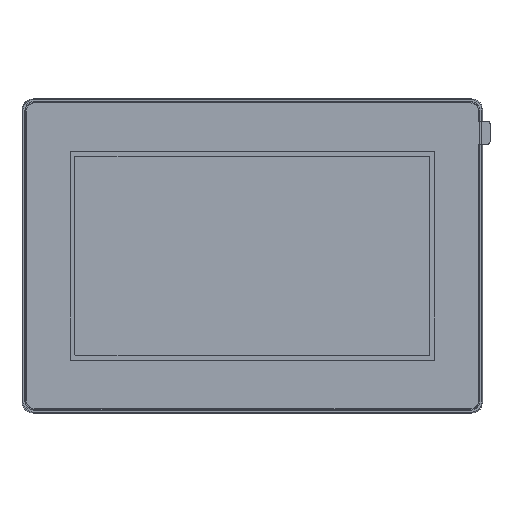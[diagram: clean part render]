
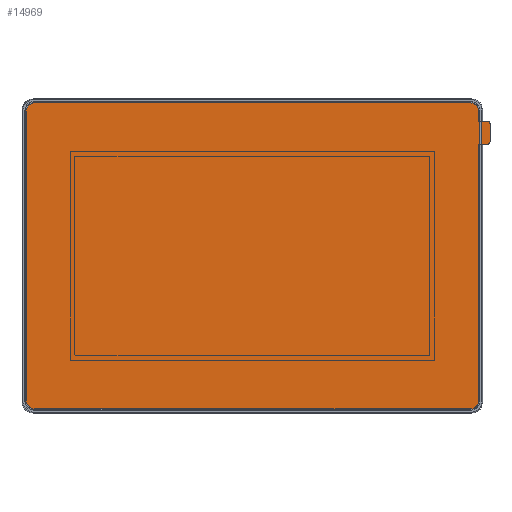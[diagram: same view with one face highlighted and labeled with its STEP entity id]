
A CAD part, top view. The second image highlights one B-rep face of the part: STEP entity #14969.
In plain terms, the highlighted planar face has unit normal (0, 0, 1) as drawn and (0, 1, 0) by its records, which use the part's own axes.
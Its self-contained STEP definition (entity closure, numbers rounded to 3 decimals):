
#14598=CARTESIAN_POINT('',(102.8,0.1,-57.8));
#14599=DIRECTION('',(0.,-1.,0.));
#14600=DIRECTION('',(0.,0.,-1.));
#14601=AXIS2_PLACEMENT_3D('',#14598,#14599,#14600);
#14603=DIRECTION('',(0.,0.,1.));
#14604=VECTOR('',#14603,8.);
#14605=CARTESIAN_POINT('',(103.8,0.1,-57.8));
#14606=LINE('',#14605,#14604);
#14607=CARTESIAN_POINT('',(102.8,0.1,-49.8));
#14608=DIRECTION('',(0.,-1.,0.));
#14609=DIRECTION('',(1.,0.,0.));
#14610=AXIS2_PLACEMENT_3D('',#14607,#14608,#14609);
#14612=DIRECTION('',(-1.,0.,0.));
#14613=VECTOR('',#14612,4.);
#14614=CARTESIAN_POINT('',(102.8,0.1,-48.8));
#14615=LINE('',#14614,#14613);
#14616=DIRECTION('',(0.,0.,1.));
#14617=VECTOR('',#14616,112.);
#14618=CARTESIAN_POINT('',(98.8,0.1,-48.8));
#14619=LINE('',#14618,#14617);
#14620=CARTESIAN_POINT('',(95.2,0.1,63.2));
#14621=DIRECTION('',(0.,-1.,0.));
#14622=DIRECTION('',(1.,0.,0.));
#14623=AXIS2_PLACEMENT_3D('',#14620,#14621,#14622);
#14625=DIRECTION('',(-1.,0.,0.));
#14626=VECTOR('',#14625,190.4);
#14627=CARTESIAN_POINT('',(95.2,0.1,66.8));
#14628=LINE('',#14627,#14626);
#14629=CARTESIAN_POINT('',(-95.2,0.1,63.2));
#14630=DIRECTION('',(0.,-1.,0.));
#14631=DIRECTION('',(0.,0.,1.));
#14632=AXIS2_PLACEMENT_3D('',#14629,#14630,#14631);
#14634=DIRECTION('',(0.,0.,-1.));
#14635=VECTOR('',#14634,126.4);
#14636=CARTESIAN_POINT('',(-98.8,0.1,63.2));
#14637=LINE('',#14636,#14635);
#14638=CARTESIAN_POINT('',(-95.2,0.1,-63.2));
#14639=DIRECTION('',(0.,-1.,0.));
#14640=DIRECTION('',(-1.,0.,0.));
#14641=AXIS2_PLACEMENT_3D('',#14638,#14639,#14640);
#14643=DIRECTION('',(1.,0.,0.));
#14644=VECTOR('',#14643,190.4);
#14645=CARTESIAN_POINT('',(-95.2,0.1,-66.8));
#14646=LINE('',#14645,#14644);
#14647=CARTESIAN_POINT('',(95.2,0.1,-63.2));
#14648=DIRECTION('',(0.,-1.,0.));
#14649=DIRECTION('',(0.,0.,-1.));
#14650=AXIS2_PLACEMENT_3D('',#14647,#14648,#14649);
#14652=DIRECTION('',(0.,0.,1.));
#14653=VECTOR('',#14652,4.4);
#14654=CARTESIAN_POINT('',(98.8,0.1,-63.2));
#14655=LINE('',#14654,#14653);
#14656=DIRECTION('',(1.,0.,0.));
#14657=VECTOR('',#14656,4.);
#14658=CARTESIAN_POINT('',(98.8,0.1,-58.8));
#14659=LINE('',#14658,#14657);
#14688=CARTESIAN_POINT('',(103.8,0.1,-57.8));
#14689=VERTEX_POINT('',#14688);
#14690=CARTESIAN_POINT('',(102.8,0.1,-58.8));
#14691=VERTEX_POINT('',#14690);
#14692=CARTESIAN_POINT('',(103.8,0.1,-49.8));
#14693=VERTEX_POINT('',#14692);
#14694=CARTESIAN_POINT('',(102.8,0.1,-48.8));
#14695=VERTEX_POINT('',#14694);
#14696=CARTESIAN_POINT('',(98.8,0.1,-48.8));
#14697=VERTEX_POINT('',#14696);
#14698=CARTESIAN_POINT('',(98.8,0.1,63.2));
#14699=VERTEX_POINT('',#14698);
#14700=CARTESIAN_POINT('',(95.2,0.1,66.8));
#14701=VERTEX_POINT('',#14700);
#14702=CARTESIAN_POINT('',(-95.2,0.1,66.8));
#14703=VERTEX_POINT('',#14702);
#14704=CARTESIAN_POINT('',(-98.8,0.1,63.2));
#14705=VERTEX_POINT('',#14704);
#14706=CARTESIAN_POINT('',(-98.8,0.1,-63.2));
#14707=VERTEX_POINT('',#14706);
#14708=CARTESIAN_POINT('',(-95.2,0.1,-66.8));
#14709=VERTEX_POINT('',#14708);
#14710=CARTESIAN_POINT('',(95.2,0.1,-66.8));
#14711=VERTEX_POINT('',#14710);
#14712=CARTESIAN_POINT('',(98.8,0.1,-63.2));
#14713=VERTEX_POINT('',#14712);
#14714=CARTESIAN_POINT('',(98.8,0.1,-58.8));
#14715=VERTEX_POINT('',#14714);
#14948=CARTESIAN_POINT('',(0.,0.1,0.));
#14949=DIRECTION('',(0.,1.,0.));
#14950=DIRECTION('',(1.,0.,0.));
#14951=AXIS2_PLACEMENT_3D('',#14948,#14949,#14950);
#14952=PLANE('',#14951);
#14953=ORIENTED_EDGE('',*,*,#14760,.T.);
#14954=ORIENTED_EDGE('',*,*,#14776,.T.);
#14955=ORIENTED_EDGE('',*,*,#14789,.T.);
#14956=ORIENTED_EDGE('',*,*,#14804,.T.);
#14957=ORIENTED_EDGE('',*,*,#14818,.T.);
#14958=ORIENTED_EDGE('',*,*,#14831,.T.);
#14959=ORIENTED_EDGE('',*,*,#14844,.T.);
#14960=ORIENTED_EDGE('',*,*,#14859,.T.);
#14961=ORIENTED_EDGE('',*,*,#14872,.T.);
#14962=ORIENTED_EDGE('',*,*,#14887,.T.);
#14963=ORIENTED_EDGE('',*,*,#14902,.T.);
#14964=ORIENTED_EDGE('',*,*,#14915,.T.);
#14965=ORIENTED_EDGE('',*,*,#14928,.T.);
#14966=ORIENTED_EDGE('',*,*,#14941,.T.);
#14967=EDGE_LOOP('',(#14953,#14954,#14955,#14956,#14957,#14958,#14959,#14960,
#14961,#14962,#14963,#14964,#14965,#14966));
#14968=FACE_OUTER_BOUND('',#14967,.F.);
#14602=CIRCLE('',#14601,1.);
#14611=CIRCLE('',#14610,1.);
#14624=CIRCLE('',#14623,3.6);
#14633=CIRCLE('',#14632,3.6);
#14642=CIRCLE('',#14641,3.6);
#14651=CIRCLE('',#14650,3.6);
#14760=EDGE_CURVE('',#14691,#14689,#14602,.T.);
#14776=EDGE_CURVE('',#14689,#14693,#14606,.T.);
#14789=EDGE_CURVE('',#14693,#14695,#14611,.T.);
#14804=EDGE_CURVE('',#14695,#14697,#14615,.T.);
#14818=EDGE_CURVE('',#14697,#14699,#14619,.T.);
#14831=EDGE_CURVE('',#14699,#14701,#14624,.T.);
#14844=EDGE_CURVE('',#14701,#14703,#14628,.T.);
#14859=EDGE_CURVE('',#14703,#14705,#14633,.T.);
#14872=EDGE_CURVE('',#14705,#14707,#14637,.T.);
#14887=EDGE_CURVE('',#14707,#14709,#14642,.T.);
#14902=EDGE_CURVE('',#14709,#14711,#14646,.T.);
#14915=EDGE_CURVE('',#14711,#14713,#14651,.T.);
#14928=EDGE_CURVE('',#14713,#14715,#14655,.T.);
#14941=EDGE_CURVE('',#14715,#14691,#14659,.T.);
#14969=ADVANCED_FACE('',(#14968),#14952,.T.);
